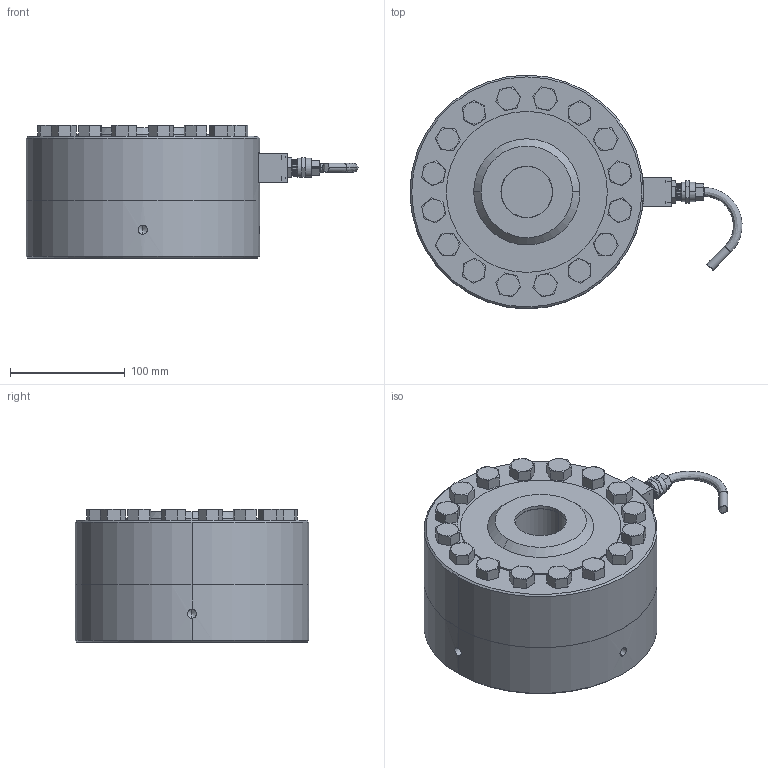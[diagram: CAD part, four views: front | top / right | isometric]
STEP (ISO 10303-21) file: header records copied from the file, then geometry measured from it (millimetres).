
FILE_DESCRIPTION (( 'STEP AP203' ), '1' );
FILE_NAME ('Interface 3232-100K-B.STEP', '2012-06-05T16:42:42', ( ' ' ), ( '' ), 'SwSTEP 2.0', 'SolidWorks 2002349', '' );
FILE_SCHEMA (( 'CONFIG_CONTROL_DESIGN' ));
Length unit declared in the file: inch
Products named in the file (1): Interface 3232-100K-B
Bounding box: 288.74 x 203.15 x 116.48 mm (x, y, z)
Volume: 3410550.2 mm3; surface area: 165239.3 mm2
Topology: 1 solids, 1 shells, 408 faces, 955 edges, 584 vertices
Faces by surface type: plane 201, cone 148, cylinder 48, bspline 11
Entity records: 12499 total; most frequent: CARTESIAN_POINT 3472, ORIENTED_EDGE 1894, DIRECTION 1761, EDGE_CURVE 947, AXIS2_PLACEMENT_3D 649, VERTEX_POINT 584, LINE 463, VECTOR 463
